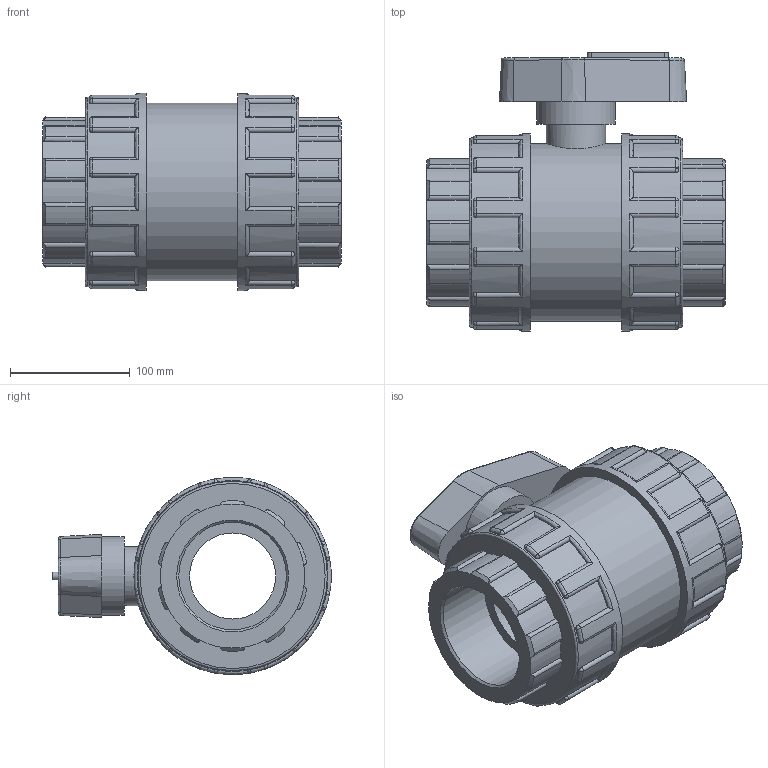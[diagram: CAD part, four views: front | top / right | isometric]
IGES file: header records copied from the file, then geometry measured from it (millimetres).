
Global section: file name: 11240090.ipt; native system: Autodesk Inventor 2015; preprocessor: unknown; author: KIM; date: 20171207.170256; units: millimetre
Bounding box: 250 x 232.88 x 165 mm (x, y, z)
Volume: 3382003 mm3; surface area: 254161.2 mm2
Topology: 1 solids, 1 shells, 434 faces, 1085 edges, 662 vertices
Faces by surface type: cylinder 189, plane 114, revolution 59, sphere 48, cone 24
Full cylindrical faces by diameter (mm): 49.5 x1, 66 x1, 148.5 x1, 158.4 x2, 165 x2
